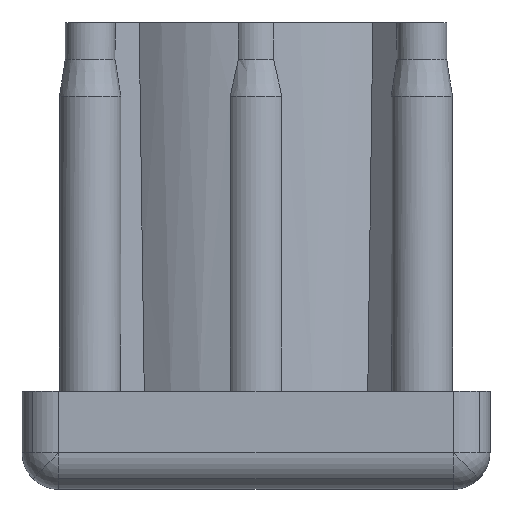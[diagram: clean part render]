
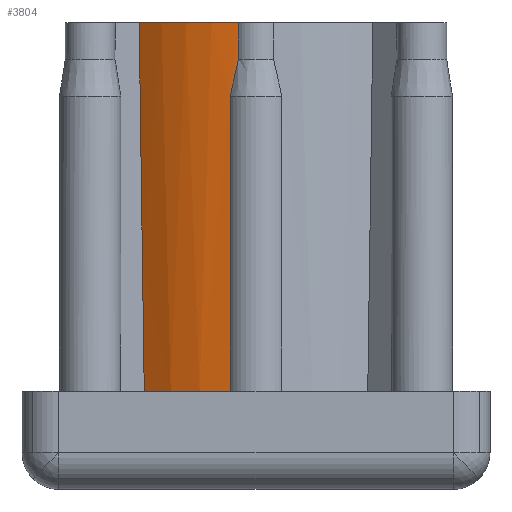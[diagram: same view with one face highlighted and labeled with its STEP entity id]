
A CAD part, front view. The second image highlights one B-rep face of the part: STEP entity #3804.
In plain terms, the highlighted cylindrical face has radius 15 mm (diameter 30 mm), a partial arc.
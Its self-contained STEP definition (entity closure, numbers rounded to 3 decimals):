
#63 = AXIS2_PLACEMENT_3D ( 'NONE', #1382, #2610, #3220 ) ;
#96 = ORIENTED_EDGE ( 'NONE', *, *, #596, .F. ) ;
#126 = EDGE_CURVE ( 'NONE', #3948, #1238, #1025, .T. ) ;
#190 = DIRECTION ( 'NONE',  ( 0., 0., 1. ) ) ;
#482 = CARTESIAN_POINT ( 'NONE',  ( -1.432, -14.931, 37.25 ) ) ;
#544 = DIRECTION ( 'NONE',  ( 0., 0., -1. ) ) ;
#596 = EDGE_CURVE ( 'NONE', #3695, #1238, #3962, .T. ) ;
#622 = AXIS2_PLACEMENT_3D ( 'NONE', #3638, #1442, #3922 ) ;
#687 = CARTESIAN_POINT ( 'NONE',  ( -2.103, -14.852, 22.25 ) ) ;
#763 = CARTESIAN_POINT ( 'NONE',  ( -9.511, -11.599, 37.25 ) ) ;
#771 = ORIENTED_EDGE ( 'NONE', *, *, #126, .T. ) ;
#841 = CARTESIAN_POINT ( 'NONE',  ( -1.432, -14.931, 34.25 ) ) ;
#849 = EDGE_CURVE ( 'NONE', #3587, #3948, #1313, .T. ) ;
#896 = VECTOR ( 'NONE', #1285, 1000. ) ;
#907 = EDGE_CURVE ( 'NONE', #1127, #3869, #2538, .T. ) ;
#1012 = EDGE_CURVE ( 'NONE', #3869, #3587, #1731, .T. ) ;
#1025 = LINE ( 'NONE', #2690, #3049 ) ;
#1127 = VERTEX_POINT ( 'NONE', #3490 ) ;
#1155 = DIRECTION ( 'NONE',  ( -1., 0., 0. ) ) ;
#1195 = CARTESIAN_POINT ( 'NONE',  ( -1.432, -14.931, 34.25 ) ) ;
#1238 = VERTEX_POINT ( 'NONE', #482 ) ;
#1285 = DIRECTION ( 'NONE',  ( 0., 0., 1. ) ) ;
#1313 = B_SPLINE_CURVE_WITH_KNOTS ( 'NONE', 3,
 ( #3634, #3954, #2349, #841 ),
 .UNSPECIFIED., .F., .F.,
 ( 4, 4 ),
 ( 0., 1. ),
 .UNSPECIFIED. ) ;
#1333 = CIRCLE ( 'NONE', #622, 48254.36 ) ;
#1353 = FACE_OUTER_BOUND ( 'NONE', #1830, .T. ) ;
#1382 = CARTESIAN_POINT ( 'NONE',  ( 0., 0., 37.25 ) ) ;
#1442 = DIRECTION ( 'NONE',  ( 0.707, -0.707, 0.017 ) ) ;
#1731 = LINE ( 'NONE', #687, #896 ) ;
#1793 = DIRECTION ( 'NONE',  ( 0., 0., 1. ) ) ;
#1805 = CARTESIAN_POINT ( 'NONE',  ( 0., 0., 7.25 ) ) ;
#1830 = EDGE_LOOP ( 'NONE', ( #96, #2875, #2762, #1854, #3108, #771 ) ) ;
#1854 = ORIENTED_EDGE ( 'NONE', *, *, #1012, .T. ) ;
#1935 = CARTESIAN_POINT ( 'NONE',  ( -2.103, -14.852, 31.25 ) ) ;
#2046 = AXIS2_PLACEMENT_3D ( 'NONE', #3969, #544, #1155 ) ;
#2349 = CARTESIAN_POINT ( 'NONE',  ( -1.632, -14.912, 33.442 ) ) ;
#2538 = CIRCLE ( 'NONE', #3423, 15. ) ;
#2610 = DIRECTION ( 'NONE',  ( 0., 0., 1. ) ) ;
#2690 = CARTESIAN_POINT ( 'NONE',  ( -1.432, -14.931, 35.75 ) ) ;
#2710 = CYLINDRICAL_SURFACE ( 'NONE', #2046, 15. ) ;
#2718 = DIRECTION ( 'NONE',  ( 1., 0., 0. ) ) ;
#2762 = ORIENTED_EDGE ( 'NONE', *, *, #907, .T. ) ;
#2859 = EDGE_CURVE ( 'NONE', #3695, #1127, #1333, .T. ) ;
#2875 = ORIENTED_EDGE ( 'NONE', *, *, #2859, .T. ) ;
#3049 = VECTOR ( 'NONE', #190, 1000. ) ;
#3108 = ORIENTED_EDGE ( 'NONE', *, *, #849, .T. ) ;
#3220 = DIRECTION ( 'NONE',  ( 1., 0., 0. ) ) ;
#3423 = AXIS2_PLACEMENT_3D ( 'NONE', #1805, #1793, #2718 ) ;
#3490 = CARTESIAN_POINT ( 'NONE',  ( -9.098, -11.926, 7.25 ) ) ;
#3587 = VERTEX_POINT ( 'NONE', #1935 ) ;
#3606 = CARTESIAN_POINT ( 'NONE',  ( -2.103, -14.852, 7.25 ) ) ;
#3634 = CARTESIAN_POINT ( 'NONE',  ( -2.103, -14.852, 31.25 ) ) ;
#3638 = CARTESIAN_POINT ( 'NONE',  ( 34110.396, 34110.363, 120.499 ) ) ;
#3695 = VERTEX_POINT ( 'NONE', #763 ) ;
#3804 = ADVANCED_FACE ( 'NONE', ( #1353 ), #2710, .T. ) ;
#3869 = VERTEX_POINT ( 'NONE', #3606 ) ;
#3922 = DIRECTION ( 'NONE',  ( -0.707, -0.707, -0.002 ) ) ;
#3948 = VERTEX_POINT ( 'NONE', #1195 ) ;
#3954 = CARTESIAN_POINT ( 'NONE',  ( -1.856, -14.887, 32.442 ) ) ;
#3962 = CIRCLE ( 'NONE', #63, 15. ) ;
#3969 = CARTESIAN_POINT ( 'NONE',  ( 0., 0., 37.25 ) ) ;
